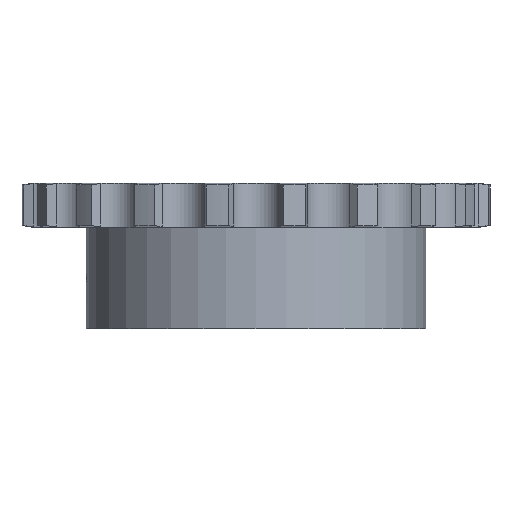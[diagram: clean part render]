
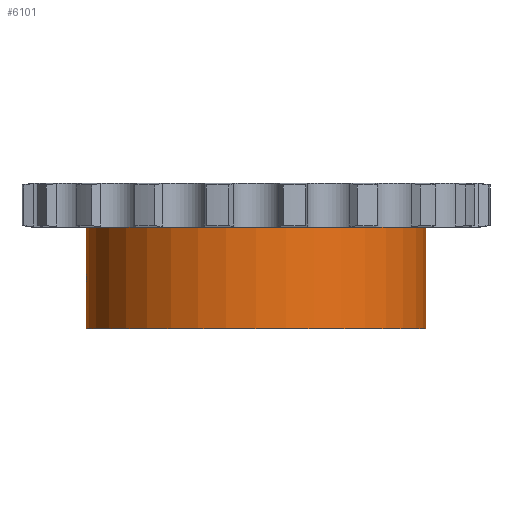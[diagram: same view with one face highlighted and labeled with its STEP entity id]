
A CAD part, front view. The second image highlights one B-rep face of the part: STEP entity #6101.
In plain terms, the highlighted cylindrical face has radius 35 mm (diameter 70 mm), a partial arc.
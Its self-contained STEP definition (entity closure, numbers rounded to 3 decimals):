
#1287=CARTESIAN_POINT('',(0.,0.,-4.55));
#1288=DIRECTION('',(0.,0.,1.));
#1289=DIRECTION('',(-1.,0.,0.));
#1290=AXIS2_PLACEMENT_3D('',#1287,#1288,#1289);
#3021=CARTESIAN_POINT('',(-35.,0.,
-13.));
#3043=DIRECTION('',(0.,0.,1.));
#3044=VECTOR('',#3043,20.9);
#3045=CARTESIAN_POINT('',(35.,0.,-25.45));
#3046=LINE('',#3045,#3044);
#3159=CARTESIAN_POINT('',(0.,0.,-25.45));
#3160=DIRECTION('',(0.,0.,-1.));
#3161=DIRECTION('',(1.,0.,0.));
#3162=AXIS2_PLACEMENT_3D('',#3159,#3160,#3161);
#3188=CARTESIAN_POINT('',(-35.,0.,
-13.));
#3189=CARTESIAN_POINT('',(-35.,-0.105,
-13.));
#3190=CARTESIAN_POINT('',(-34.999,-0.313,
-13.016));
#3191=CARTESIAN_POINT('',(-34.995,-0.627,
-13.09));
#3192=CARTESIAN_POINT('',(-34.988,-0.926,
-13.213));
#3193=CARTESIAN_POINT('',(-34.98,-1.198,
-13.38));
#3194=CARTESIAN_POINT('',(-34.971,-1.439,
-13.585));
#3195=CARTESIAN_POINT('',(-34.961,-1.645,
-13.825));
#3196=CARTESIAN_POINT('',(-34.953,-1.812,
-14.097));
#3197=CARTESIAN_POINT('',(-34.947,-1.933,
-14.391));
#3198=CARTESIAN_POINT('',(-34.943,-2.005,
-14.697));
#3199=CARTESIAN_POINT('',(-34.942,-2.02,
-14.899));
#3200=CARTESIAN_POINT('',(-34.942,-2.02,
-15.));
#3205=DIRECTION('',(0.,0.,1.));
#3206=VECTOR('',#3205,8.45);
#3207=CARTESIAN_POINT('',(-35.,0.,
-13.));
#3208=LINE('',#3207,#3206);
#3212=DIRECTION('',(0.,0.,1.));
#3213=VECTOR('',#3212,8.45);
#3214=CARTESIAN_POINT('',(-35.,0.,-25.45));
#3215=LINE('',#3214,#3213);
#3219=CARTESIAN_POINT('',(-34.942,-2.02,
-15.));
#3220=CARTESIAN_POINT('',(-34.942,-2.02,
-15.101));
#3221=CARTESIAN_POINT('',(-34.943,-2.005,
-15.302));
#3222=CARTESIAN_POINT('',(-34.947,-1.934,
-15.608));
#3223=CARTESIAN_POINT('',(-34.953,-1.813,
-15.902));
#3224=CARTESIAN_POINT('',(-34.961,-1.646,
-16.174));
#3225=CARTESIAN_POINT('',(-34.971,-1.44,
-16.415));
#3226=CARTESIAN_POINT('',(-34.98,-1.199,
-16.62));
#3227=CARTESIAN_POINT('',(-34.988,-0.926,
-16.787));
#3228=CARTESIAN_POINT('',(-34.995,-0.628,
-16.91));
#3229=CARTESIAN_POINT('',(-34.999,-0.314,
-16.984));
#3230=CARTESIAN_POINT('',(-35.,-0.105,
-17.));
#3231=CARTESIAN_POINT('',(-35.,0.,
-17.));
#3591=CARTESIAN_POINT('',(-35.,0.,-25.45));
#3592=CARTESIAN_POINT('',(35.,0.,-25.45));
#3593=VERTEX_POINT('',#3591);
#3594=VERTEX_POINT('',#3592);
#3595=CARTESIAN_POINT('',(35.,0.,-4.55));
#3596=VERTEX_POINT('',#3595);
#3597=CARTESIAN_POINT('',(-35.,0.,-4.55));
#3598=VERTEX_POINT('',#3597);
#3798=VERTEX_POINT('',#3021);
#3801=VERTEX_POINT('',#3200);
#3803=VERTEX_POINT('',#3231);
#6085=CARTESIAN_POINT('',(0.,0.,4.55));
#6086=DIRECTION('',(0.,0.,1.));
#6087=DIRECTION('',(1.,0.,0.));
#6088=AXIS2_PLACEMENT_3D('',#6085,#6086,#6087);
#6089=CYLINDRICAL_SURFACE('',#6088,35.);
#6091=ORIENTED_EDGE('',*,*,#6090,.F.);
#6092=ORIENTED_EDGE('',*,*,#5819,.T.);
#6093=ORIENTED_EDGE('',*,*,#5126,.T.);
#6094=ORIENTED_EDGE('',*,*,#5816,.F.);
#6095=ORIENTED_EDGE('',*,*,#6071,.T.);
#6096=ORIENTED_EDGE('',*,*,#5812,.T.);
#6098=ORIENTED_EDGE('',*,*,#6097,.F.);
#6099=EDGE_LOOP('',(#6091,#6092,#6093,#6094,#6095,#6096,#6098));
#6100=FACE_OUTER_BOUND('',#6099,.F.);
#6101=ADVANCED_FACE('',(#6100),#6089,.T.);
#1291=CIRCLE('',#1290,35.);
#3163=CIRCLE('',#3162,35.);
#3201=B_SPLINE_CURVE_WITH_KNOTS('',3,(#3188,#3189,#3190,#3191,#3192,#3193,#3194,
#3195,#3196,#3197,#3198,#3199,#3200),.UNSPECIFIED.,.F.,.F.,(4,1,1,1,1,1,1,1,1,1,
4),(0.,0.1,0.2,0.3,0.4,0.5,0.6,0.7,0.8,0.9,1.),
.UNSPECIFIED.);
#3232=B_SPLINE_CURVE_WITH_KNOTS('',3,(#3219,#3220,#3221,#3222,#3223,#3224,#3225,
#3226,#3227,#3228,#3229,#3230,#3231),.UNSPECIFIED.,.F.,.F.,(4,1,1,1,1,1,1,1,1,1,
4),(0.,0.1,0.2,0.3,0.4,0.5,0.6,0.7,0.8,0.9,1.),
.UNSPECIFIED.);
#5126=EDGE_CURVE('',#3598,#3596,#1291,.T.);
#5812=EDGE_CURVE('',#3593,#3803,#3215,.T.);
#5816=EDGE_CURVE('',#3594,#3596,#3046,.T.);
#5819=EDGE_CURVE('',#3798,#3598,#3208,.T.);
#6071=EDGE_CURVE('',#3594,#3593,#3163,.T.);
#6090=EDGE_CURVE('',#3798,#3801,#3201,.T.);
#6097=EDGE_CURVE('',#3801,#3803,#3232,.T.);
